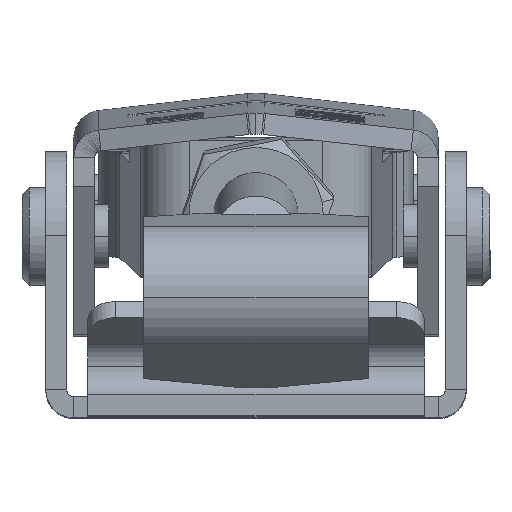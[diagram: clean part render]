
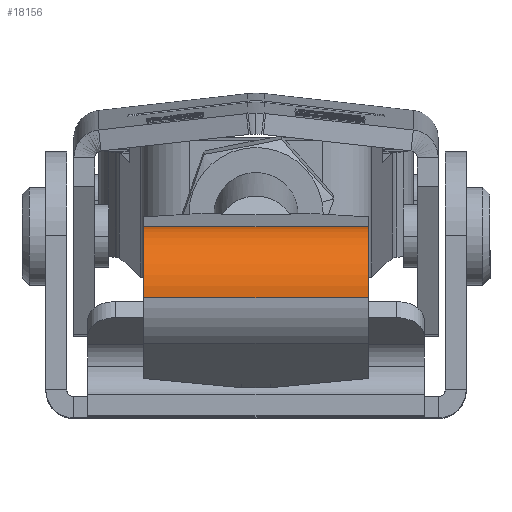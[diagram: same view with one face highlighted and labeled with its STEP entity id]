
A CAD part, top view. The second image highlights one B-rep face of the part: STEP entity #18156.
In plain terms, the highlighted cylindrical face has radius 4.763 mm (diameter 9.527 mm), a partial arc.
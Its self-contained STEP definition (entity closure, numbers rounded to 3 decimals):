
#50 = EDGE_CURVE ( 'NONE', #8004, #21391, #7132, .T. ) ;
#63 = ORIENTED_EDGE ( 'NONE', *, *, #50, .F. ) ;
#931 = VERTEX_POINT ( 'NONE', #15506 ) ;
#1350 = CARTESIAN_POINT ( 'NONE',  ( -8., 4.763, -20.395 ) ) ;
#2472 = CARTESIAN_POINT ( 'NONE',  ( -8., 4.763, -20.395 ) ) ;
#2509 = EDGE_CURVE ( 'NONE', #9235, #931, #21434, .T. ) ;
#4857 = CARTESIAN_POINT ( 'NONE',  ( -8., 4.763, -15.632 ) ) ;
#5093 = CYLINDRICAL_SURFACE ( 'NONE', #7224, 4.763 ) ;
#5174 = DIRECTION ( 'NONE',  ( 0., 0., -1. ) ) ;
#5335 = DIRECTION ( 'NONE',  ( 1., 0., 0. ) ) ;
#5454 = CARTESIAN_POINT ( 'NONE',  ( -8., 0., -15.632 ) ) ;
#7132 = LINE ( 'NONE', #5454, #23242 ) ;
#7224 = AXIS2_PLACEMENT_3D ( 'NONE', #4857, #19643, #12461 ) ;
#7450 = EDGE_LOOP ( 'NONE', ( #18086, #19520, #9081, #63 ) ) ;
#8004 = VERTEX_POINT ( 'NONE', #19974 ) ;
#8181 = CIRCLE ( 'NONE', #21634, 4.763 ) ;
#9081 = ORIENTED_EDGE ( 'NONE', *, *, #15452, .F. ) ;
#9235 = VERTEX_POINT ( 'NONE', #2472 ) ;
#11102 = CIRCLE ( 'NONE', #11481, 4.763 ) ;
#11481 = AXIS2_PLACEMENT_3D ( 'NONE', #20808, #19143, #11945 ) ;
#11945 = DIRECTION ( 'NONE',  ( 0., 0., -1. ) ) ;
#12461 = DIRECTION ( 'NONE',  ( 0., 0., -1. ) ) ;
#13760 = CARTESIAN_POINT ( 'NONE',  ( 8., 0., -15.632 ) ) ;
#15452 = EDGE_CURVE ( 'NONE', #21391, #931, #8181, .T. ) ;
#15506 = CARTESIAN_POINT ( 'NONE',  ( 8., 4.763, -20.395 ) ) ;
#15774 = DIRECTION ( 'NONE',  ( 1., 0., 0. ) ) ;
#16053 = DIRECTION ( 'NONE',  ( 1., 0., 0. ) ) ;
#18086 = ORIENTED_EDGE ( 'NONE', *, *, #18935, .T. ) ;
#18156 = ADVANCED_FACE ( 'NONE', ( #23259 ), #5093, .T. ) ;
#18935 = EDGE_CURVE ( 'NONE', #8004, #9235, #11102, .T. ) ;
#19143 = DIRECTION ( 'NONE',  ( 1., 0., 0. ) ) ;
#19520 = ORIENTED_EDGE ( 'NONE', *, *, #2509, .T. ) ;
#19643 = DIRECTION ( 'NONE',  ( 1., 0., 0. ) ) ;
#19974 = CARTESIAN_POINT ( 'NONE',  ( -8., 0., -15.632 ) ) ;
#20808 = CARTESIAN_POINT ( 'NONE',  ( -8., 4.763, -15.632 ) ) ;
#21391 = VERTEX_POINT ( 'NONE', #13760 ) ;
#21434 = LINE ( 'NONE', #1350, #22239 ) ;
#21634 = AXIS2_PLACEMENT_3D ( 'NONE', #22503, #15774, #5174 ) ;
#22239 = VECTOR ( 'NONE', #16053, 1000. ) ;
#22503 = CARTESIAN_POINT ( 'NONE',  ( 8., 4.763, -15.632 ) ) ;
#23242 = VECTOR ( 'NONE', #5335, 1000. ) ;
#23259 = FACE_OUTER_BOUND ( 'NONE', #7450, .T. ) ;
